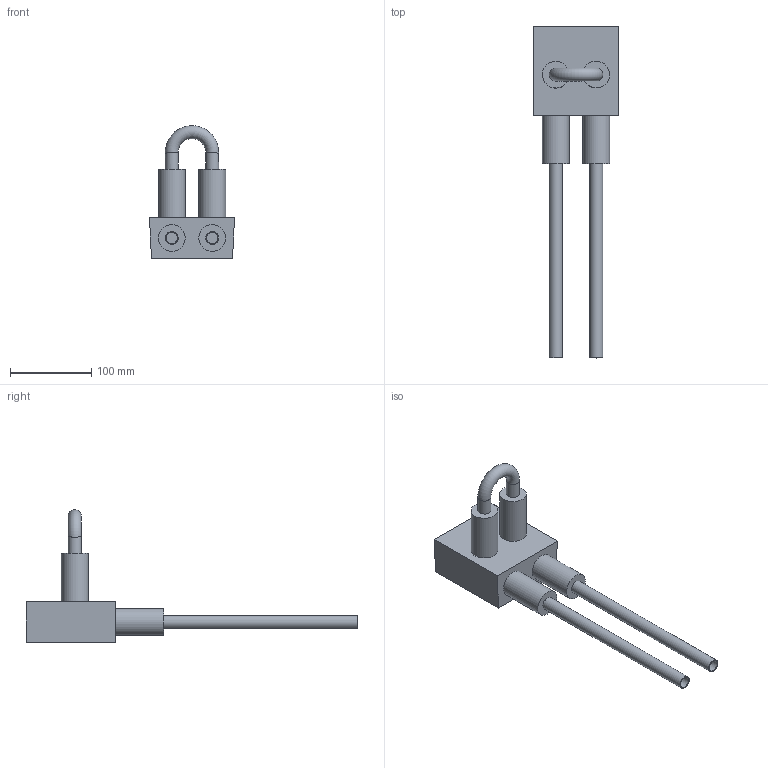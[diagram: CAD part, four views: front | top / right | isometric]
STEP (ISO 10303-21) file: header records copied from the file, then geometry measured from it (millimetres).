
FILE_DESCRIPTION(/* description */ (''),/* implementation_level */ '2;1');
FILE_NAME(/* name */ '\\LG50011\SANHA_Legnica\Engineering\Public\PROJEKTY\SANHA-BOX_Support_BiR\002-Rysunki_Boxów\25-HK-M\Zespół-325HKM16_Izolacja.stp',/* time_stamp */ '2018-11-05T14:31:12+01:00',/* author */ ('gomulka'),/* organization */ (''),/* preprocessor_version */ 'ST-DEVELOPER v16.13',/* originating_system */ 'Autodesk Inventor 2018',/* authorisation */ '');
FILE_SCHEMA (('AUTOMOTIVE_DESIGN { 1 0 10303 214 3 1 1 }'));
Length unit declared in the file: millimetre
Products named in the file (5): Zespół-325HKM16_Izolacja; 325HKM16; Rura16x2-kolano; Rura_16x2-krotka; Isolierung
Assembly tree (8 placements, depth 2):
  Zespół-325HKM16_Izolacja
    325HKM16
    Rura16x2-kolano
    Rura_16x2-krotka  x2
    Isolierung  x4
Bounding box: 105 x 409.68 x 163.6 mm (x, y, z)
Volume: 764737.1 mm3; surface area: 180065.9 mm2
Topology: 8 solids, 8 shells, 50 faces, 94 edges, 64 vertices
Faces by surface type: plane 24, cylinder 24, torus 2
Full cylindrical faces by diameter (mm): 14 x4, 15 x4, 16 x8, 33 x4
Entity records: 1144 total; most frequent: CARTESIAN_POINT 235, DIRECTION 178, ORIENTED_EDGE 104, AXIS2_PLACEMENT_3D 83, EDGE_LOOP 58, EDGE_CURVE 52, VERTEX_POINT 44, FACE_OUTER_BOUND 34
